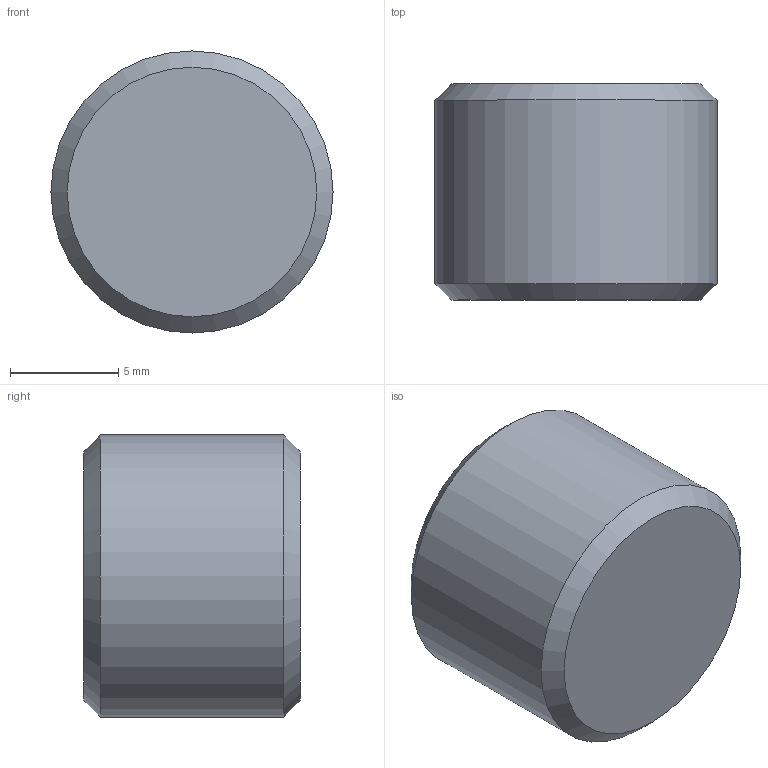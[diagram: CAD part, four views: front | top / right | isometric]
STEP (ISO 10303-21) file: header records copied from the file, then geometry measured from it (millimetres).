
FILE_DESCRIPTION(/* description */ (''),/* implementation_level */ '2;1');
FILE_NAME(/* name */ 'C:/Users/drich/Desktop/cad/Plugs/BSPT Pipe Plugs/Brass/BF-BSPT-14 v1.step',/* time_stamp */ '2020-01-10T12:53:43-06:00',/* author */ (''),/* organization */ (''),/* preprocessor_version */ 'ST-DEVELOPER v18',/* originating_system */ 'Autodesk Translation Framework v8.12.0.6',/* authorisation */ '');
FILE_SCHEMA (('AUTOMOTIVE_DESIGN { 1 0 10303 214 3 1 1 }'));
Length unit declared in the file: inch
Products named in the file (1): BF-BSPT-14
Bounding box: 13.03 x 9.98 x 13.03 mm (x, y, z)
Volume: 1085.4 mm3; surface area: 772.5 mm2
Topology: 1 solids, 1 shells, 13 faces, 35 edges, 25 vertices
Faces by surface type: plane 9, cone 3, cylinder 1
Full cylindrical faces by diameter (mm): 13.032 x1
Entity records: 446 total; most frequent: CARTESIAN_POINT 98, ORIENTED_EDGE 70, DIRECTION 58, EDGE_CURVE 35, VERTEX_POINT 25, AXIS2_PLACEMENT_3D 21, LINE 16, VECTOR 16
